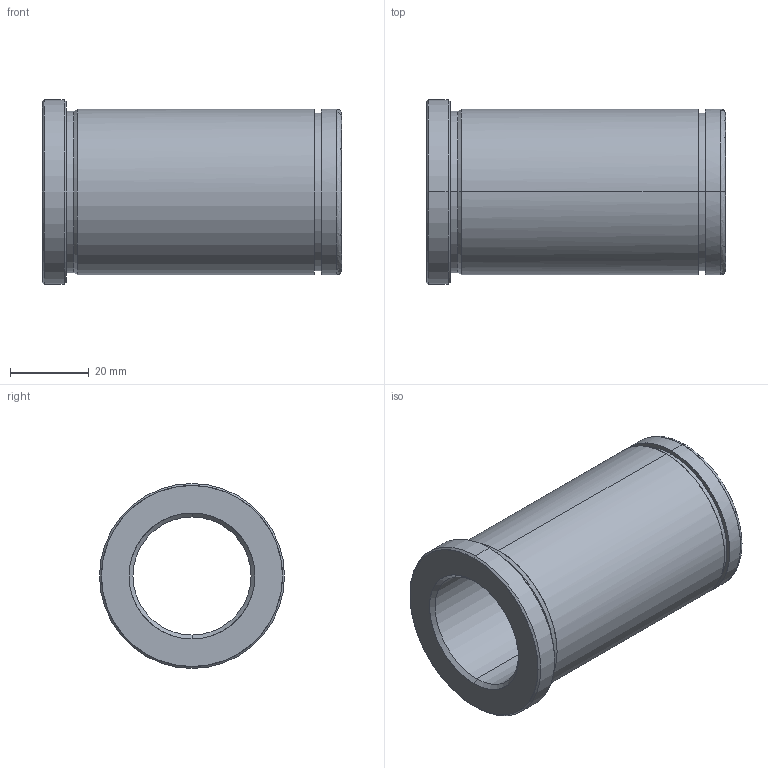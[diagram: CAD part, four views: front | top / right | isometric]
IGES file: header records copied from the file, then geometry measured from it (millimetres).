
Start section: START RECORD GO HERE.
Global section: file name: 553-30X76.igs; native system: DASSAULT SYSTEMES CATIA V5 R20 - www.3ds.com; preprocessor: CATIA Version 5 Release 20 ; author: Utente; organization: NB04-ASUS; date: 20210526.202303; units: millimetre
Bounding box: 76 x 47 x 47 mm (x, y, z)
Surface area: 19354.2 mm2 (no closed solid volume)
Topology: 0 solids, 0 shells, 29 faces, 184 edges, 184 vertices
Faces by surface type: revolution 24, plane 5
